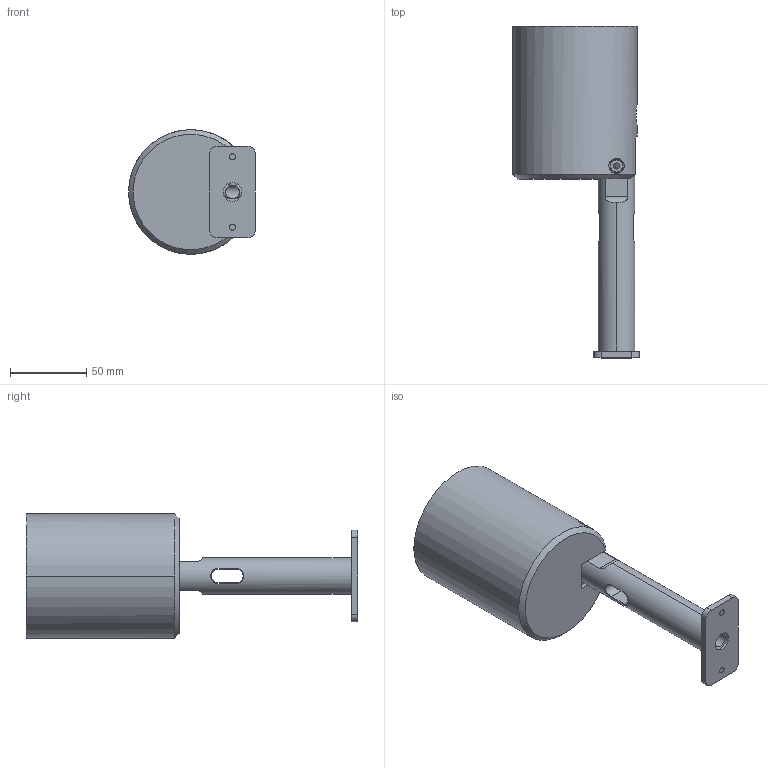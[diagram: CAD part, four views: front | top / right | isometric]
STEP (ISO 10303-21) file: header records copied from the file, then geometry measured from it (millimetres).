
FILE_DESCRIPTION((''),'2;1');
FILE_NAME('PICCHETTO_SW0002','2025-05-22T11:59:58',('elena.baldelli'),(''),'CREO PARAMETRIC BY PTC INC, 2020354','CREO PARAMETRIC BY PTC INC, 2020354','');
FILE_SCHEMA(('CONFIG_CONTROL_DESIGN'));
Length unit declared in the file: millimetre
Products named in the file (1): PICCHETTO_SW0002
Bounding box: 83 x 217 x 81.5 mm (x, y, z)
Surface area: 88492.3 mm2 (no closed solid volume)
Topology: 0 solids, 21 shells, 85 faces, 335 edges, 258 vertices
Faces by surface type: plane 37, cylinder 31, cone 7, bspline 6, torus 4
Entity records: 6021 total; most frequent: CARTESIAN_POINT 3180, DIRECTION 605, ORIENTED_EDGE 490, EDGE_CURVE 335, VERTEX_POINT 258, AXIS2_PLACEMENT_3D 234, CIRCLE 155, VECTOR 137
